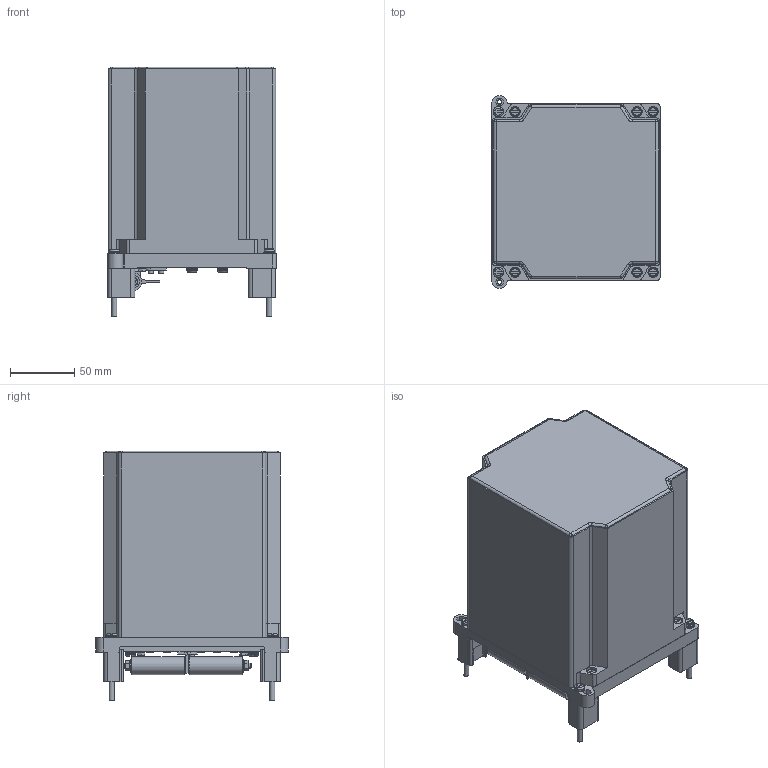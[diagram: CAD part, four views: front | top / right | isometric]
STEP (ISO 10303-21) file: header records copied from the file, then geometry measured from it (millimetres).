
FILE_DESCRIPTION(('STEP AP214'), '1');
FILE_NAME('ÈÃÔÐ.647531.001-08 ÑÁ - ÐÑÒ 23-1 ç.ï.', '', ('UNSPECIFIED'), ('UNSPECIFIED'), 'ASCON STEP Converter 1.3', 'ASCON Math Kernel', '');
FILE_SCHEMA(('AUTOMOTIVE_DESIGN { 1 0 10303 214 3 1 1}'));
Length unit declared in the file: millimetre
Products named in the file (1): 让孕.647531.001-08 蚜
Bounding box: 131 x 149.97 x 194.5 mm (x, y, z)
Volume: 453943.6 mm3; surface area: 303429 mm2
Topology: 1 solids, 1 shells, 9352 faces, 23814 edges, 15088 vertices
Faces by surface type: plane 7021, cylinder 2187, torus 72, cone 56, sphere 16
Full cylindrical faces by diameter (mm): 2 x4, 2.459 x2, 3.3 x8, 3.5 x2, 4 x33, 4.3 x12, 4.5 x32, 5.2 x4, 5.3 x5, 6 x2, 7.5 x2, 8 x12, 10 x4, 14 x2
Entity records: 357859 total; most frequent: CARTESIAN_POINT 55101, ORIENTED_EDGE 47160, DIRECTION 46676, EDGE_CURVE 23580, LINE 18502, VECTOR 18502, VERTEX_POINT 15078, AXIS2_PLACEMENT_3D 14087
